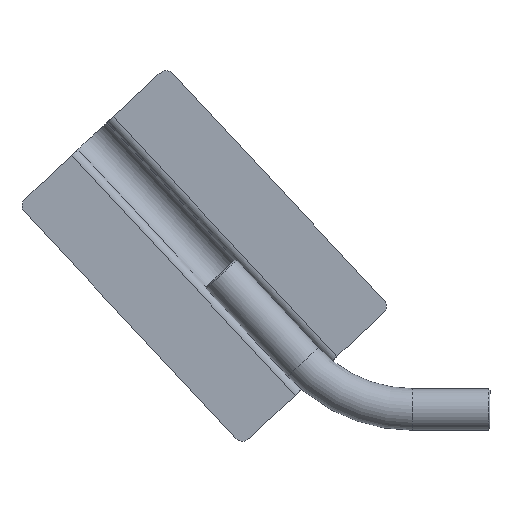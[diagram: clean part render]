
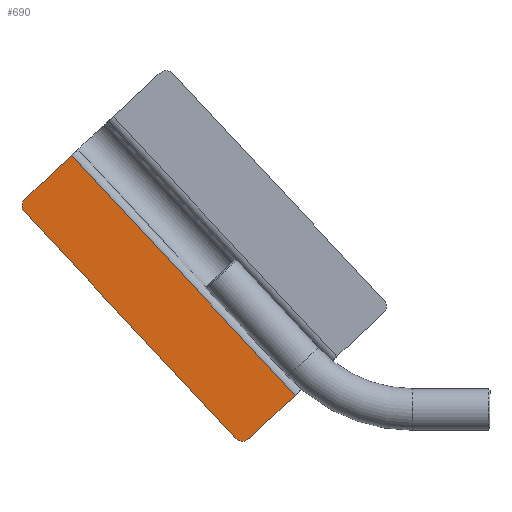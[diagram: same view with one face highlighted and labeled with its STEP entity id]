
A CAD part, left-side view. The second image highlights one B-rep face of the part: STEP entity #690.
In plain terms, the highlighted planar face has unit normal (-1, 0, 0).
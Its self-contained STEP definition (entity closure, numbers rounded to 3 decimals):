
#30=PLANE('',#784);
#55=LINE('',#1212,#100);
#62=LINE('',#1236,#107);
#65=LINE('',#1242,#110);
#66=LINE('',#1244,#111);
#100=VECTOR('',#930,10.);
#107=VECTOR('',#951,10.);
#110=VECTOR('',#956,10.);
#111=VECTOR('',#957,10.);
#164=FACE_OUTER_BOUND('',#204,.T.);
#204=EDGE_LOOP('',(#555,#556,#557,#558,#559,#560));
#259=CIRCLE('',#782,3.);
#260=CIRCLE('',#785,3.);
#308=VERTEX_POINT('',#1209);
#309=VERTEX_POINT('',#1211);
#318=VERTEX_POINT('',#1231);
#319=VERTEX_POINT('',#1235);
#321=VERTEX_POINT('',#1241);
#322=VERTEX_POINT('',#1243);
#391=EDGE_CURVE('',#308,#309,#55,.T.);
#401=EDGE_CURVE('',#309,#318,#259,.T.);
#403=EDGE_CURVE('',#318,#319,#62,.T.);
#406=EDGE_CURVE('',#308,#321,#65,.T.);
#407=EDGE_CURVE('',#322,#321,#66,.T.);
#408=EDGE_CURVE('',#319,#322,#260,.T.);
#555=ORIENTED_EDGE('',*,*,#401,.F.);
#556=ORIENTED_EDGE('',*,*,#391,.F.);
#557=ORIENTED_EDGE('',*,*,#406,.T.);
#558=ORIENTED_EDGE('',*,*,#407,.F.);
#559=ORIENTED_EDGE('',*,*,#408,.F.);
#560=ORIENTED_EDGE('',*,*,#403,.F.);
#690=ADVANCED_FACE('',(#164),#30,.T.);
#782=AXIS2_PLACEMENT_3D('',#1232,#946,#947);
#784=AXIS2_PLACEMENT_3D('',#1240,#954,#955);
#785=AXIS2_PLACEMENT_3D('',#1245,#958,#959);
#930=DIRECTION('',(0.,0.731,-0.682));
#946=DIRECTION('center_axis',(1.,0.,0.));
#947=DIRECTION('ref_axis',(0.,0.035,-0.999));
#951=DIRECTION('',(0.,0.682,0.731));
#954=DIRECTION('center_axis',(-1.,0.,0.));
#955=DIRECTION('ref_axis',(0.,-0.731,0.682));
#956=DIRECTION('',(0.,0.682,0.731));
#957=DIRECTION('',(0.,-0.731,0.682));
#958=DIRECTION('center_axis',(1.,0.,0.));
#959=DIRECTION('ref_axis',(0.,0.999,0.035));
#1209=CARTESIAN_POINT('',(0.,50.31,4.729));
#1211=CARTESIAN_POINT('',(0.,66.005,-9.907));
#1212=CARTESIAN_POINT('',(0.,50.31,4.729));
#1231=CARTESIAN_POINT('',(0.,70.245,-9.759));
#1232=CARTESIAN_POINT('Origin',(0.,68.051,
-7.713));
#1235=CARTESIAN_POINT('',(0.,141.173,66.302));
#1236=CARTESIAN_POINT('',(0.,68.199,-11.953));
#1240=CARTESIAN_POINT('Origin',(0.,68.199,
-11.953));
#1241=CARTESIAN_POINT('',(0.,125.33,85.178));
#1242=CARTESIAN_POINT('',(0.,50.31,4.729));
#1243=CARTESIAN_POINT('',(0.,141.025,70.542));
#1244=CARTESIAN_POINT('',(0.,125.33,85.178));
#1245=CARTESIAN_POINT('Origin',(0.,138.979,
68.348));
